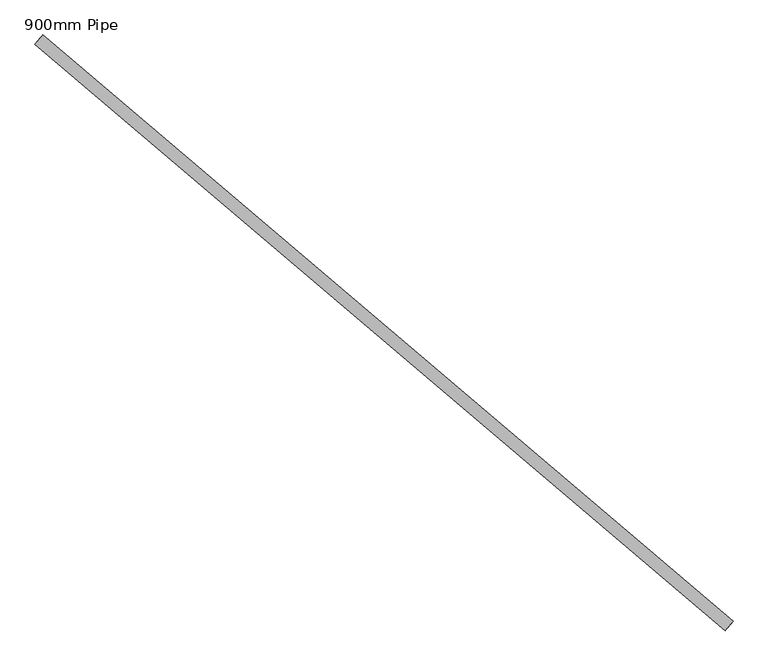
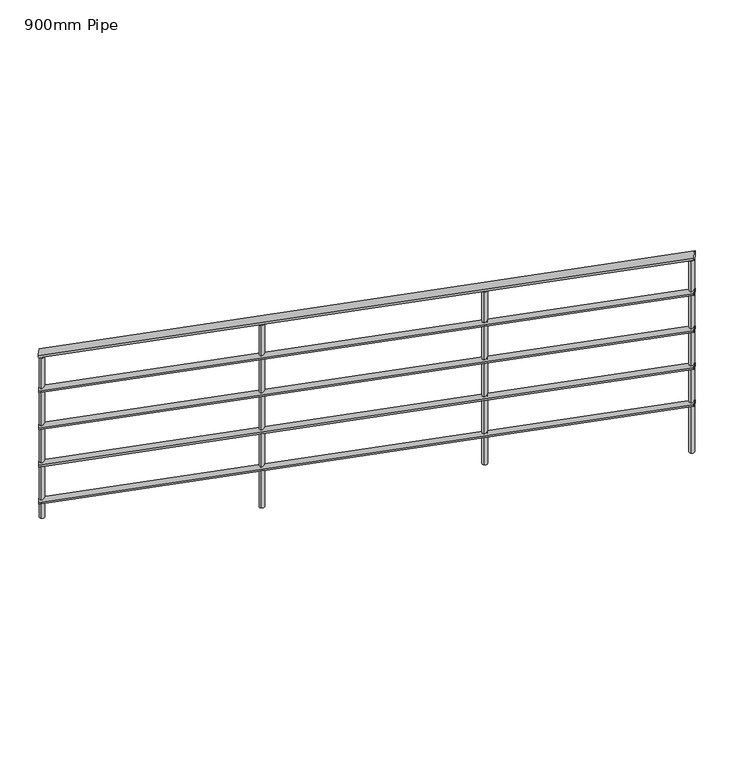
"""IFC4 building model written with IfcOpenShell, lengths in millimetres: railing geometry, 900mm Pipe."""

from ifc_helpers import new_model, si_unit, frame, origin, place, context, project, spatial, circle_curve, ellipse_curve, source, transform, mapped, element, save
from ifc_brep_helpers import plane_surface, cylinder_surface, advanced_brep


def railing_900mm_pipe_32e64179(model_context):
    return source(origin(), model_context, "Body", "AdvancedBrep", [
        advanced_brep(
        [(843127.0441513, 56106.3447787, 1058.386247), (843101.1499101, 56075.8572686, 1058.386247), (845369.4415726, 54201.7884734, 1954.8568352), (845343.5473314, 54171.3009633, 1954.8568352)],
        [
            (0, 1, ellipse_curve(frame((843114.0970307, 56091.1010236, 1058.386247), z_axis=(-0.762187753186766, 0.6473560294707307, 0.0), x_axis=(0.0, 0.0, -1.0)), 20.9078706, 20.0)),
            (1, 0, ellipse_curve(frame((843114.0970307, 56091.1010236, 1058.386247), z_axis=(-0.762187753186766, 0.6473560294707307, 0.0), x_axis=(0.0, 0.0, -1.0)), 20.9078706, 20.0)),
            (2, 3, ellipse_curve(frame((845356.494452, 54186.5447184, 1954.8568352), z_axis=(0.762187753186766, -0.6473560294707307, 0.0), x_axis=(0.0, 0.0, -1.0)), 20.9078706, 20.0)),
            (3, 2, ellipse_curve(frame((845356.494452, 54186.5447184, 1954.8568352), z_axis=(0.762187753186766, -0.6473560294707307, 0.0), x_axis=(0.0, 0.0, -1.0)), 20.9078706, 20.0)),
            (0, 2),
            (3, 1),
        ],
        [
            plane_surface(frame((843114.0970307, 56091.1010236, 1079.2941176), z_axis=(-0.762187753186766, 0.6473560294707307, 0.0), x_axis=(0.6473560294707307, 0.762187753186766, 0.0))),
            plane_surface(frame((845356.494452, 54186.5447184, 1975.7647059), z_axis=(0.762187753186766, -0.6473560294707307, 0.0), x_axis=(0.6473560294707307, 0.762187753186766, 0.0))),
            cylinder_surface(frame((843118.5402483, 56087.3272242, 1060.1625663), z_axis=(-0.7290917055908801, 0.6192462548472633, -0.29147789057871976), x_axis=(-0.6473560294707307, -0.762187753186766, 0.0)), 20.0),
        ],
        [
            (0, [[1, 2]]),
            (1, [[3, 4]]),
            (2, [[-1, 5, -4, 6]]),
            (2, [[-2, -6, -3, -5]]),
        ],
    ),
        advanced_brep(
        [(843123.8073711, 56102.5338399, 863.6132147), (843104.3866903, 56079.6682073, 863.6132147), (845366.2047924, 54197.9775347, 1760.0838029), (845346.7841115, 54175.1119021, 1760.0838029)],
        [
            (0, 1, ellipse_curve(frame((843114.0970307, 56091.1010236, 863.6132147), z_axis=(-0.762187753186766, 0.6473560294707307, 0.0), x_axis=(0.0, 0.0, -1.0)), 15.680903, 15.0)),
            (1, 0, ellipse_curve(frame((843114.0970307, 56091.1010236, 863.6132147), z_axis=(-0.762187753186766, 0.6473560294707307, 0.0), x_axis=(0.0, 0.0, -1.0)), 15.680903, 15.0)),
            (2, 3, ellipse_curve(frame((845356.494452, 54186.5447184, 1760.0838029), z_axis=(0.762187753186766, -0.6473560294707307, 0.0), x_axis=(0.0, 0.0, -1.0)), 15.680903, 15.0)),
            (3, 2, ellipse_curve(frame((845356.494452, 54186.5447184, 1760.0838029), z_axis=(0.762187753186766, -0.6473560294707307, 0.0), x_axis=(0.0, 0.0, -1.0)), 15.680903, 15.0)),
            (0, 2),
            (3, 1),
        ],
        [
            plane_surface(frame((843114.0970307, 56091.1010236, 879.2941176), z_axis=(-0.762187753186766, 0.6473560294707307, 0.0), x_axis=(0.6473560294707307, 0.762187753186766, 0.0))),
            plane_surface(frame((845356.494452, 54186.5447184, 1775.7647059), z_axis=(0.762187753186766, -0.6473560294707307, 0.0), x_axis=(0.6473560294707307, 0.762187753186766, 0.0))),
            cylinder_surface(frame((843117.4294439, 56088.2706741, 864.9454542), z_axis=(-0.7290917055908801, 0.6192462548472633, -0.29147789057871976), x_axis=(-0.6473560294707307, -0.762187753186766, 0.0)), 15.0),
        ],
        [
            (0, [[1, 2]]),
            (1, [[3, 4]]),
            (2, [[-1, 5, -4, 6]]),
            (2, [[-2, -6, -3, -5]]),
        ],
    ),
        advanced_brep(
        [(843123.8073711, 56102.5338399, 663.6132147), (843104.3866903, 56079.6682073, 663.6132147), (845366.2047924, 54197.9775347, 1560.0838029), (845346.7841115, 54175.1119021, 1560.0838029)],
        [
            (0, 1, ellipse_curve(frame((843114.0970307, 56091.1010236, 663.6132147), z_axis=(-0.762187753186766, 0.6473560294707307, 0.0), x_axis=(0.0, 0.0, -1.0)), 15.680903, 15.0)),
            (1, 0, ellipse_curve(frame((843114.0970307, 56091.1010236, 663.6132147), z_axis=(-0.762187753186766, 0.6473560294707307, 0.0), x_axis=(0.0, 0.0, -1.0)), 15.680903, 15.0)),
            (2, 3, ellipse_curve(frame((845356.494452, 54186.5447184, 1560.0838029), z_axis=(0.762187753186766, -0.6473560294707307, 0.0), x_axis=(0.0, 0.0, -1.0)), 15.680903, 15.0)),
            (3, 2, ellipse_curve(frame((845356.494452, 54186.5447184, 1560.0838029), z_axis=(0.762187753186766, -0.6473560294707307, 0.0), x_axis=(0.0, 0.0, -1.0)), 15.680903, 15.0)),
            (0, 2),
            (3, 1),
        ],
        [
            plane_surface(frame((843114.0970307, 56091.1010236, 679.2941176), z_axis=(-0.762187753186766, 0.6473560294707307, 0.0), x_axis=(0.6473560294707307, 0.762187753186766, 0.0))),
            plane_surface(frame((845356.494452, 54186.5447184, 1575.7647059), z_axis=(0.762187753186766, -0.6473560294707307, 0.0), x_axis=(0.6473560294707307, 0.762187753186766, 0.0))),
            cylinder_surface(frame((843117.4294439, 56088.2706741, 664.9454542), z_axis=(-0.7290917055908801, 0.6192462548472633, -0.29147789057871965), x_axis=(-0.6473560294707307, -0.762187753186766, 0.0)), 15.0),
        ],
        [
            (0, [[1, 2]]),
            (1, [[3, 4]]),
            (2, [[-1, 5, -4, 6]]),
            (2, [[-2, -6, -3, -5]]),
        ],
    ),
        advanced_brep(
        [(843123.8073711, 56102.5338399, 463.6132147), (843104.3866903, 56079.6682073, 463.6132147), (845366.2047924, 54197.9775347, 1360.0838029), (845346.7841115, 54175.1119021, 1360.0838029)],
        [
            (0, 1, ellipse_curve(frame((843114.0970307, 56091.1010236, 463.6132147), z_axis=(-0.762187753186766, 0.6473560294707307, 0.0), x_axis=(0.0, 0.0, -1.0)), 15.680903, 15.0)),
            (1, 0, ellipse_curve(frame((843114.0970307, 56091.1010236, 463.6132147), z_axis=(-0.762187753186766, 0.6473560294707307, 0.0), x_axis=(0.0, 0.0, -1.0)), 15.680903, 15.0)),
            (2, 3, ellipse_curve(frame((845356.494452, 54186.5447184, 1360.0838029), z_axis=(0.762187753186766, -0.6473560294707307, 0.0), x_axis=(0.0, 0.0, -1.0)), 15.680903, 15.0)),
            (3, 2, ellipse_curve(frame((845356.494452, 54186.5447184, 1360.0838029), z_axis=(0.762187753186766, -0.6473560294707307, 0.0), x_axis=(0.0, 0.0, -1.0)), 15.680903, 15.0)),
            (0, 2),
            (3, 1),
        ],
        [
            plane_surface(frame((843114.0970307, 56091.1010236, 479.2941176), z_axis=(-0.762187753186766, 0.6473560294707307, 0.0), x_axis=(0.6473560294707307, 0.762187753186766, 0.0))),
            plane_surface(frame((845356.494452, 54186.5447184, 1375.7647059), z_axis=(0.762187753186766, -0.6473560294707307, 0.0), x_axis=(0.6473560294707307, 0.762187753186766, 0.0))),
            cylinder_surface(frame((843117.4294439, 56088.2706741, 464.9454542), z_axis=(-0.7290917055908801, 0.6192462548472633, -0.29147789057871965), x_axis=(-0.6473560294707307, -0.762187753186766, 0.0)), 15.0),
        ],
        [
            (0, [[1, 2]]),
            (1, [[3, 4]]),
            (2, [[-1, 5, -4, 6]]),
            (2, [[-2, -6, -3, -5]]),
        ],
    ),
        advanced_brep(
        [(843123.8073711, 56102.5338399, 263.6132147), (843104.3866903, 56079.6682073, 263.6132147), (845366.2047924, 54197.9775347, 1160.0838029), (845346.7841115, 54175.1119021, 1160.0838029)],
        [
            (0, 1, ellipse_curve(frame((843114.0970307, 56091.1010236, 263.6132147), z_axis=(-0.762187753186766, 0.6473560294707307, 0.0), x_axis=(0.0, 0.0, -1.0)), 15.680903, 15.0)),
            (1, 0, ellipse_curve(frame((843114.0970307, 56091.1010236, 263.6132147), z_axis=(-0.762187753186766, 0.6473560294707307, 0.0), x_axis=(0.0, 0.0, -1.0)), 15.680903, 15.0)),
            (2, 3, ellipse_curve(frame((845356.494452, 54186.5447184, 1160.0838029), z_axis=(0.762187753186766, -0.6473560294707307, 0.0), x_axis=(0.0, 0.0, -1.0)), 15.680903, 15.0)),
            (3, 2, ellipse_curve(frame((845356.494452, 54186.5447184, 1160.0838029), z_axis=(0.762187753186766, -0.6473560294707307, 0.0), x_axis=(0.0, 0.0, -1.0)), 15.680903, 15.0)),
            (0, 2),
            (3, 1),
        ],
        [
            plane_surface(frame((843114.0970307, 56091.1010236, 279.2941176), z_axis=(-0.762187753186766, 0.6473560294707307, 0.0), x_axis=(0.6473560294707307, 0.762187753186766, 0.0))),
            plane_surface(frame((845356.494452, 54186.5447184, 1175.7647059), z_axis=(0.762187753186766, -0.6473560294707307, 0.0), x_axis=(0.6473560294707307, 0.762187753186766, 0.0))),
            cylinder_surface(frame((843117.4294439, 56088.2706741, 264.9454542), z_axis=(-0.7290917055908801, 0.6192462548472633, -0.29147789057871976), x_axis=(-0.6473560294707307, -0.762187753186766, 0.0)), 15.0),
        ],
        [
            (0, [[1, 2]]),
            (1, [[3, 4]]),
            (2, [[-1, 5, -4, 6]]),
            (2, [[-2, -6, -3, -5]]),
        ],
    ),
        advanced_brep(
        [(844630.3805867, 54786.8616178, 1646.8965794), (844630.3805867, 54786.8616178, 717.1764706), (844646.5644874, 54805.9163116, 717.1764706), (844646.5644874, 54805.9163116, 1646.8965794)],
        [
            (0, 1),
            (1, 2, circle_curve(frame((844638.4725371, 54796.3889647, 717.1764706), z_axis=(0.0, 0.0, 1.0), x_axis=(0.6473560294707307, 0.762187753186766, 0.0)), 12.5)),
            (2, 3),
            (3, 0, ellipse_curve(frame((844638.4725371, 54796.3889647, 1646.8965794), z_axis=(0.22216087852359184, -0.18868996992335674, -0.9565775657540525), x_axis=(0.7290917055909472, -0.6192462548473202, 0.2914778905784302)), 13.0674191, 12.5)),
            (0, 3, ellipse_curve(frame((844638.4725371, 54796.3889647, 1646.8965794), z_axis=(0.22216087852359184, -0.18868996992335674, -0.9565775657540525), x_axis=(0.7290917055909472, -0.6192462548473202, 0.2914778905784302)), 13.0674191, 12.5)),
            (2, 1, circle_curve(frame((844638.4725371, 54796.3889647, 717.1764706), z_axis=(0.0, 0.0, 1.0), x_axis=(0.6473560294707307, 0.762187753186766, 0.0)), 12.5)),
        ],
        [
            cylinder_surface(frame((844638.4725371, 54796.3889647, 617.1764706), z_axis=(0.0, 0.0, 1.0), x_axis=(0.6473560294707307, 0.762187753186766, 0.0)), 12.5),
            plane_surface(frame((844673.7111316, 54799.2597578, 1654.5143069), z_axis=(-0.22216087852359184, 0.18868996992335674, 0.9565775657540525), x_axis=(-0.6473560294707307, -0.762187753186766, 0.0))),
            plane_surface(frame((844635.601744, 54831.6275593, 717.1764706), z_axis=(0.0, 0.0, -1.0), x_axis=(-0.6473560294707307, -0.762187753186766, 0.0))),
        ],
        [
            (0, [[1, 2, 3, 4]]),
            (0, [[-1, 5, -3, 6]]),
            (1, [[-4, -5]]),
            (2, [[-2, -6]]),
        ],
    ),
        advanced_brep(
        [(843868.1928335, 55434.2176472, 1342.1874779), (843868.1928335, 55434.2176472, 358.5882353), (843884.3767343, 55453.2723411, 358.5882353), (843884.3767343, 55453.2723411, 1342.1874779)],
        [
            (0, 1),
            (1, 2, circle_curve(frame((843876.2847839, 55443.7449942, 358.5882353), z_axis=(0.0, 0.0, 1.0), x_axis=(0.6473560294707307, 0.762187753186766, 0.0)), 12.5)),
            (2, 3),
            (3, 0, ellipse_curve(frame((843876.2847839, 55443.7449942, 1342.1874779), z_axis=(0.22216087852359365, -0.1886899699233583, -0.9565775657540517), x_axis=(0.7290917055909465, -0.6192462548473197, 0.29147789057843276)), 13.0674191, 12.5)),
            (0, 3, ellipse_curve(frame((843876.2847839, 55443.7449942, 1342.1874779), z_axis=(0.22216087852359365, -0.1886899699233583, -0.9565775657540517), x_axis=(0.7290917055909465, -0.6192462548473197, 0.29147789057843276)), 13.0674191, 12.5)),
            (2, 1, circle_curve(frame((843876.2847839, 55443.7449942, 358.5882353), z_axis=(0.0, 0.0, 1.0), x_axis=(0.6473560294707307, 0.762187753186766, 0.0)), 12.5)),
        ],
        [
            cylinder_surface(frame((843876.2847839, 55443.7449942, 258.5882353), z_axis=(0.0, 0.0, 1.0), x_axis=(0.6473560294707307, 0.762187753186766, 0.0)), 12.5),
            plane_surface(frame((843911.5233785, 55446.6157873, 1349.8052054), z_axis=(-0.22216087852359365, 0.1886899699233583, 0.9565775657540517), x_axis=(-0.6473560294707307, -0.762187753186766, 0.0))),
            plane_surface(frame((843873.4139908, 55478.9835887, 358.5882353), z_axis=(0.0, 0.0, -1.0), x_axis=(-0.6473560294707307, -0.762187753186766, 0.0))),
        ],
        [
            (0, [[1, 2, 3, 4]]),
            (0, [[-1, 5, -3, 6]]),
            (1, [[-4, -5]]),
            (2, [[-2, -6]]),
        ],
    ),
        advanced_brep(
        [(845338.8751547, 54185.1093218, 1930.1401008), (845338.8751547, 54185.1093218, 896.4705882), (845355.0590554, 54204.1640157, 896.4705882), (845355.0590554, 54204.1640157, 1930.1401008)],
        [
            (0, 1),
            (1, 2, circle_curve(frame((845346.9671051, 54194.6366687, 896.4705882), z_axis=(0.0, 0.0, 1.0), x_axis=(0.6473560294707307, 0.762187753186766, 0.0)), 12.5)),
            (2, 3),
            (3, 0, ellipse_curve(frame((845346.9671051, 54194.6366687, 1930.1401008), z_axis=(0.22216087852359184, -0.18868996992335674, -0.9565775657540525), x_axis=(0.7290917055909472, -0.6192462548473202, 0.2914778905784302)), 13.0674191, 12.5)),
            (0, 3, ellipse_curve(frame((845346.9671051, 54194.6366687, 1930.1401008), z_axis=(0.22216087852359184, -0.18868996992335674, -0.9565775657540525), x_axis=(0.7290917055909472, -0.6192462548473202, 0.2914778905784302)), 13.0674191, 12.5)),
            (2, 1, circle_curve(frame((845346.9671051, 54194.6366687, 896.4705882), z_axis=(0.0, 0.0, 1.0), x_axis=(0.6473560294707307, 0.762187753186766, 0.0)), 12.5)),
        ],
        [
            cylinder_surface(frame((845346.9671051, 54194.6366687, 796.4705882), z_axis=(0.0, 0.0, 1.0), x_axis=(0.6473560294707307, 0.762187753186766, 0.0)), 12.5),
            plane_surface(frame((845382.2056996, 54197.5074618, 1937.7578284), z_axis=(-0.22216087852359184, 0.18868996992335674, 0.9565775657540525), x_axis=(-0.6473560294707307, -0.762187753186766, 0.0))),
            plane_surface(frame((845344.096312, 54229.8752633, 896.4705882), z_axis=(0.0, 0.0, -1.0), x_axis=(-0.6473560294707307, -0.762187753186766, 0.0))),
        ],
        [
            (0, [[1, 2, 3, 4]]),
            (0, [[-1, 5, -3, 6]]),
            (1, [[-4, -5]]),
            (2, [[-2, -6]]),
        ],
    ),
        advanced_brep(
        [(843115.5324273, 56073.4817264, 1041.2872401), (843115.5324273, 56073.4817264, 179.2941176), (843131.716328, 56092.5364202, 179.2941176), (843131.716328, 56092.5364202, 1041.2872401)],
        [
            (0, 1),
            (1, 2, circle_curve(frame((843123.6243776, 56083.0090733, 179.2941176), z_axis=(0.0, 0.0, 1.0), x_axis=(0.6473560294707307, 0.762187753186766, 0.0)), 12.5)),
            (2, 3),
            (3, 0, ellipse_curve(frame((843123.6243776, 56083.0090733, 1041.2872401), z_axis=(0.22216087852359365, -0.1886899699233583, -0.9565775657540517), x_axis=(0.7290917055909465, -0.6192462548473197, 0.29147789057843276)), 13.0674191, 12.5)),
            (0, 3, ellipse_curve(frame((843123.6243776, 56083.0090733, 1041.2872401), z_axis=(0.22216087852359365, -0.1886899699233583, -0.9565775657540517), x_axis=(0.7290917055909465, -0.6192462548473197, 0.29147789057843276)), 13.0674191, 12.5)),
            (2, 1, circle_curve(frame((843123.6243776, 56083.0090733, 179.2941176), z_axis=(0.0, 0.0, 1.0), x_axis=(0.6473560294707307, 0.762187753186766, 0.0)), 12.5)),
        ],
        [
            cylinder_surface(frame((843123.6243776, 56083.0090733, 79.2941176), z_axis=(0.0, 0.0, 1.0), x_axis=(0.6473560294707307, 0.762187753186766, 0.0)), 12.5),
            plane_surface(frame((843158.8629722, 56085.8798664, 1048.9049677), z_axis=(-0.22216087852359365, 0.1886899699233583, 0.9565775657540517), x_axis=(-0.6473560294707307, -0.762187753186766, 0.0))),
            plane_surface(frame((843120.7535845, 56118.2476678, 179.2941176), z_axis=(0.0, 0.0, -1.0), x_axis=(-0.6473560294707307, -0.762187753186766, 0.0))),
        ],
        [
            (0, [[1, 2, 3, 4]]),
            (0, [[-1, 5, -3, 6]]),
            (1, [[-4, -5]]),
            (2, [[-2, -6]]),
        ],
    ),
    ])


if __name__ == "__main__":
    model = new_model("IFC4")
    model_context = context("Model", 3, world=origin())
    ifc_project = project(units=[si_unit("LENGTHUNIT", "METRE", prefix="MILLI")], contexts=[model_context])
    site = spatial("IfcSite", under=ifc_project)
    building = spatial("IfcBuilding", under=site)
    placement = place(None, origin())
    railing_900mm_pipe_shape = railing_900mm_pipe_32e64179(model_context)
    element("IfcRailing", 1, ObjectType="900mm Pipe", at=placement, inside=building, context=model_context, shape_type="MappedRepresentation", body=[
        mapped(railing_900mm_pipe_shape, transform((0.0, 0.0, 0.0), x_axis=(1.0, 0.0, 0.0), y_axis=(0.0, 1.0, 0.0), z_axis=(0.0, 0.0, 1.0))),
    ])
    save(model, "model.ifc")
